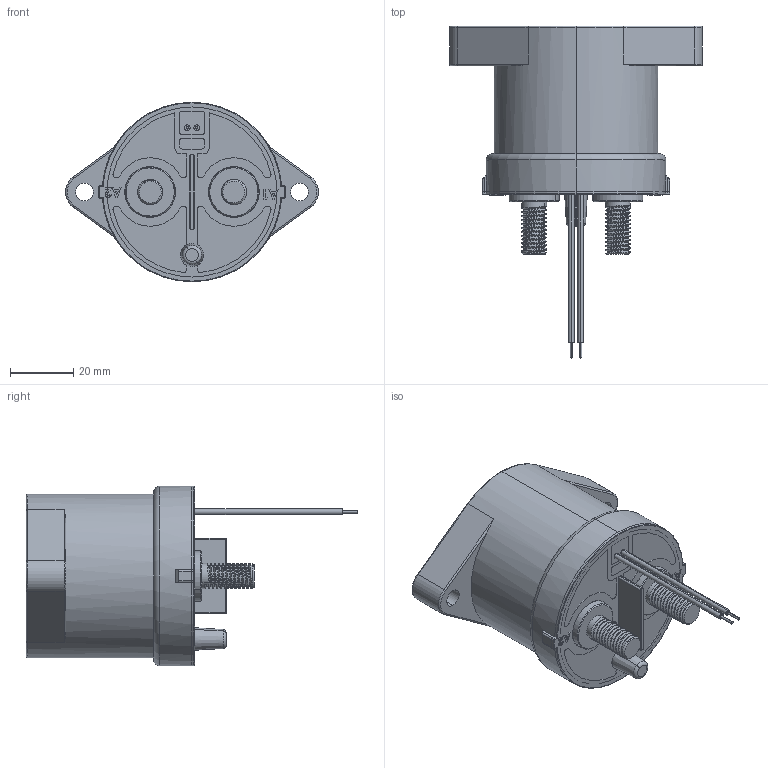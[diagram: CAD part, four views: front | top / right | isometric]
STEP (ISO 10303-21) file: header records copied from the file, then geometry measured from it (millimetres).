
FILE_DESCRIPTION((''),'2;1');
FILE_NAME('PRT0008','2024-11-05T16:00:49',('pc'),(''),'CREO PARAMETRIC BY PTC INC, 2018100','CREO PARAMETRIC BY PTC INC, 2018100','');
FILE_SCHEMA(('CONFIG_CONTROL_DESIGN'));
Length unit declared in the file: millimetre
Products named in the file (1): PRT0008
Bounding box: 80.26 x 105.37 x 57 mm (x, y, z)
Surface area: 32872.9 mm2 (no closed solid volume)
Topology: 0 solids, 7 shells, 413 faces, 1090 edges, 705 vertices
Faces by surface type: cylinder 199, plane 151, torus 30, cone 17, extrusion 6, bspline 6, sphere 4
Entity records: 25296 total; most frequent: CARTESIAN_POINT 14938, ORIENTED_EDGE 2172, DIRECTION 2151, EDGE_CURVE 1086, AXIS2_PLACEMENT_3D 794, VERTEX_POINT 705, VECTOR 563, LINE 557
